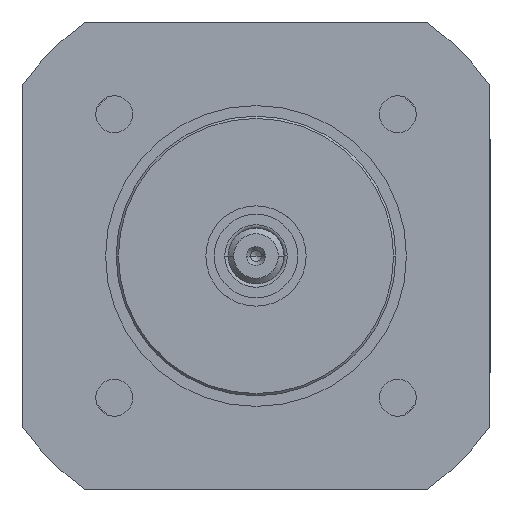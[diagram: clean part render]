
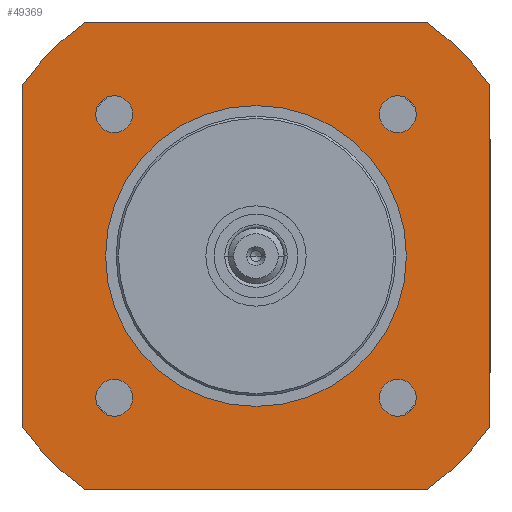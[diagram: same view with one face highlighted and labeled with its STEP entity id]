
A CAD part, left-side view. The second image highlights one B-rep face of the part: STEP entity #49369.
In plain terms, the highlighted planar face has unit normal (-1, 0, 0).
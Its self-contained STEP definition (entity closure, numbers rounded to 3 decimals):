
#2249=CARTESIAN_POINT('',(-10.5,0.,0.));
#2250=DIRECTION('',(-1.,0.,0.));
#2251=DIRECTION('',(0.,-0.59,-0.808));
#2252=AXIS2_PLACEMENT_3D('',#2249,#2250,#2251);
#2254=DIRECTION('',(0.,-1.,0.));
#2255=VECTOR('',#2254,30.659);
#2256=CARTESIAN_POINT('',(-10.5,15.33,-21.));
#2257=LINE('',#2256,#2255);
#2258=CARTESIAN_POINT('',(-10.5,0.,0.));
#2259=DIRECTION('',(-1.,0.,0.));
#2260=DIRECTION('',(0.,0.808,-0.59));
#2261=AXIS2_PLACEMENT_3D('',#2258,#2259,#2260);
#2263=DIRECTION('',(0.,0.,-1.));
#2264=VECTOR('',#2263,30.659);
#2265=CARTESIAN_POINT('',(-10.5,21.,15.33));
#2266=LINE('',#2265,#2264);
#2267=CARTESIAN_POINT('',(-10.5,0.,0.));
#2268=DIRECTION('',(-1.,0.,0.));
#2269=DIRECTION('',(0.,0.59,0.808));
#2270=AXIS2_PLACEMENT_3D('',#2267,#2268,#2269);
#2272=DIRECTION('',(0.,1.,0.));
#2273=VECTOR('',#2272,30.659);
#2274=CARTESIAN_POINT('',(-10.5,-15.33,21.));
#2275=LINE('',#2274,#2273);
#2276=CARTESIAN_POINT('',(-10.5,0.,0.));
#2277=DIRECTION('',(-1.,0.,0.));
#2278=DIRECTION('',(0.,-0.808,0.59));
#2279=AXIS2_PLACEMENT_3D('',#2276,#2277,#2278);
#2281=DIRECTION('',(0.,0.,1.));
#2282=VECTOR('',#2281,30.659);
#2283=CARTESIAN_POINT('',(-10.5,-21.,-15.33));
#2284=LINE('',#2283,#2282);
#2285=CARTESIAN_POINT('',(-10.5,0.,0.));
#2286=DIRECTION('',(-1.,0.,0.));
#2287=DIRECTION('',(0.,0.,1.));
#2288=AXIS2_PLACEMENT_3D('',#2285,#2286,#2287);
#2290=CARTESIAN_POINT('',(-10.5,0.,0.));
#2291=DIRECTION('',(-1.,0.,0.));
#2292=DIRECTION('',(0.,0.,-1.));
#2293=AXIS2_PLACEMENT_3D('',#2290,#2291,#2292);
#2295=CARTESIAN_POINT('',(-10.5,12.728,-12.728));
#2296=DIRECTION('',(-1.,0.,0.));
#2297=DIRECTION('',(0.,1.,0.));
#2298=AXIS2_PLACEMENT_3D('',#2295,#2296,#2297);
#2300=CARTESIAN_POINT('',(-10.5,12.728,-12.728));
#2301=DIRECTION('',(-1.,0.,0.));
#2302=DIRECTION('',(0.,-1.,0.));
#2303=AXIS2_PLACEMENT_3D('',#2300,#2301,#2302);
#2305=CARTESIAN_POINT('',(-10.5,-12.728,-12.728));
#2306=DIRECTION('',(-1.,0.,0.));
#2307=DIRECTION('',(0.,0.,-1.));
#2308=AXIS2_PLACEMENT_3D('',#2305,#2306,#2307);
#2310=CARTESIAN_POINT('',(-10.5,-12.728,-12.728));
#2311=DIRECTION('',(-1.,0.,0.));
#2312=DIRECTION('',(0.,0.,1.));
#2313=AXIS2_PLACEMENT_3D('',#2310,#2311,#2312);
#2315=CARTESIAN_POINT('',(-10.5,-12.728,12.728));
#2316=DIRECTION('',(-1.,0.,0.));
#2317=DIRECTION('',(0.,-1.,0.));
#2318=AXIS2_PLACEMENT_3D('',#2315,#2316,#2317);
#2320=CARTESIAN_POINT('',(-10.5,-12.728,12.728));
#2321=DIRECTION('',(-1.,0.,0.));
#2322=DIRECTION('',(0.,1.,0.));
#2323=AXIS2_PLACEMENT_3D('',#2320,#2321,#2322);
#2325=CARTESIAN_POINT('',(-10.5,12.728,12.728));
#2326=DIRECTION('',(-1.,0.,0.));
#2327=DIRECTION('',(0.,0.,1.));
#2328=AXIS2_PLACEMENT_3D('',#2325,#2326,#2327);
#2330=CARTESIAN_POINT('',(-10.5,12.728,12.728));
#2331=DIRECTION('',(-1.,0.,0.));
#2332=DIRECTION('',(0.,0.,-1.));
#2333=AXIS2_PLACEMENT_3D('',#2330,#2331,#2332);
#42805=CARTESIAN_POINT('',(-10.5,-21.,-15.33));
#42806=CARTESIAN_POINT('',(-10.5,-21.,15.33));
#42807=VERTEX_POINT('',#42805);
#42808=VERTEX_POINT('',#42806);
#42809=CARTESIAN_POINT('',(-10.5,-15.33,21.));
#42810=CARTESIAN_POINT('',(-10.5,15.33,21.));
#42811=VERTEX_POINT('',#42809);
#42812=VERTEX_POINT('',#42810);
#42813=CARTESIAN_POINT('',(-10.5,21.,15.33));
#42814=CARTESIAN_POINT('',(-10.5,21.,-15.33));
#42815=VERTEX_POINT('',#42813);
#42816=VERTEX_POINT('',#42814);
#42817=CARTESIAN_POINT('',(-10.5,15.33,-21.));
#42818=CARTESIAN_POINT('',(-10.5,-15.33,-21.));
#42819=VERTEX_POINT('',#42817);
#42820=VERTEX_POINT('',#42818);
#42861=CARTESIAN_POINT('',(-10.5,0.,13.5));
#42862=CARTESIAN_POINT('',(-10.5,0.,-13.5));
#42863=VERTEX_POINT('',#42861);
#42864=VERTEX_POINT('',#42862);
#42897=CARTESIAN_POINT('',(-10.5,14.378,-12.728));
#42898=CARTESIAN_POINT('',(-10.5,11.078,-12.728));
#42899=VERTEX_POINT('',#42897);
#42900=VERTEX_POINT('',#42898);
#42901=CARTESIAN_POINT('',(-10.5,-12.728,-14.378));
#42902=CARTESIAN_POINT('',(-10.5,-12.728,-11.078));
#42903=VERTEX_POINT('',#42901);
#42904=VERTEX_POINT('',#42902);
#42905=CARTESIAN_POINT('',(-10.5,-14.378,12.728));
#42906=CARTESIAN_POINT('',(-10.5,-11.078,12.728));
#42907=VERTEX_POINT('',#42905);
#42908=VERTEX_POINT('',#42906);
#42909=CARTESIAN_POINT('',(-10.5,12.728,14.378));
#42910=CARTESIAN_POINT('',(-10.5,12.728,11.078));
#42911=VERTEX_POINT('',#42909);
#42912=VERTEX_POINT('',#42910);
#49321=CARTESIAN_POINT('',(-10.5,0.,0.));
#49322=DIRECTION('',(-1.,0.,0.));
#49323=DIRECTION('',(0.,1.,0.));
#49324=AXIS2_PLACEMENT_3D('',#49321,#49322,#49323);
#49325=PLANE('',#49324);
#49327=ORIENTED_EDGE('',*,*,#49326,.F.);
#49328=ORIENTED_EDGE('',*,*,#49221,.F.);
#49329=ORIENTED_EDGE('',*,*,#49315,.F.);
#49330=ORIENTED_EDGE('',*,*,#48639,.F.);
#49332=ORIENTED_EDGE('',*,*,#49331,.F.);
#49333=ORIENTED_EDGE('',*,*,#48583,.F.);
#49335=ORIENTED_EDGE('',*,*,#49334,.F.);
#49336=ORIENTED_EDGE('',*,*,#48509,.F.);
#49337=EDGE_LOOP('',(#49327,#49328,#49329,#49330,#49332,#49333,#49335,#49336));
#49338=FACE_OUTER_BOUND('',#49337,.F.);
#49340=ORIENTED_EDGE('',*,*,#49339,.T.);
#49342=ORIENTED_EDGE('',*,*,#49341,.T.);
#49343=EDGE_LOOP('',(#49340,#49342));
#49344=FACE_BOUND('',#49343,.F.);
#49346=ORIENTED_EDGE('',*,*,#49345,.T.);
#49348=ORIENTED_EDGE('',*,*,#49347,.T.);
#49349=EDGE_LOOP('',(#49346,#49348));
#49350=FACE_BOUND('',#49349,.F.);
#49352=ORIENTED_EDGE('',*,*,#49351,.T.);
#49354=ORIENTED_EDGE('',*,*,#49353,.T.);
#49355=EDGE_LOOP('',(#49352,#49354));
#49356=FACE_BOUND('',#49355,.F.);
#49358=ORIENTED_EDGE('',*,*,#49357,.T.);
#49360=ORIENTED_EDGE('',*,*,#49359,.T.);
#49361=EDGE_LOOP('',(#49358,#49360));
#49362=FACE_BOUND('',#49361,.F.);
#49364=ORIENTED_EDGE('',*,*,#49363,.T.);
#49366=ORIENTED_EDGE('',*,*,#49365,.T.);
#49367=EDGE_LOOP('',(#49364,#49366));
#49368=FACE_BOUND('',#49367,.F.);
#49369=ADVANCED_FACE('',(#49338,#49344,#49350,#49356,#49362,#49368),#49325,.T.);
#2253=CIRCLE('',#2252,26.);
#2262=CIRCLE('',#2261,26.);
#2271=CIRCLE('',#2270,26.);
#2280=CIRCLE('',#2279,26.);
#2289=CIRCLE('',#2288,13.5);
#2294=CIRCLE('',#2293,13.5);
#2299=CIRCLE('',#2298,1.65);
#2304=CIRCLE('',#2303,1.65);
#2309=CIRCLE('',#2308,1.65);
#2314=CIRCLE('',#2313,1.65);
#2319=CIRCLE('',#2318,1.65);
#2324=CIRCLE('',#2323,1.65);
#2329=CIRCLE('',#2328,1.65);
#2334=CIRCLE('',#2333,1.65);
#48509=EDGE_CURVE('',#42807,#42808,#2284,.T.);
#48583=EDGE_CURVE('',#42811,#42812,#2275,.T.);
#48639=EDGE_CURVE('',#42815,#42816,#2266,.T.);
#49221=EDGE_CURVE('',#42819,#42820,#2257,.T.);
#49315=EDGE_CURVE('',#42816,#42819,#2262,.T.);
#49326=EDGE_CURVE('',#42820,#42807,#2253,.T.);
#49331=EDGE_CURVE('',#42812,#42815,#2271,.T.);
#49334=EDGE_CURVE('',#42808,#42811,#2280,.T.);
#49339=EDGE_CURVE('',#42863,#42864,#2289,.T.);
#49341=EDGE_CURVE('',#42864,#42863,#2294,.T.);
#49345=EDGE_CURVE('',#42899,#42900,#2299,.T.);
#49347=EDGE_CURVE('',#42900,#42899,#2304,.T.);
#49351=EDGE_CURVE('',#42903,#42904,#2309,.T.);
#49353=EDGE_CURVE('',#42904,#42903,#2314,.T.);
#49357=EDGE_CURVE('',#42907,#42908,#2319,.T.);
#49359=EDGE_CURVE('',#42908,#42907,#2324,.T.);
#49363=EDGE_CURVE('',#42911,#42912,#2329,.T.);
#49365=EDGE_CURVE('',#42912,#42911,#2334,.T.);
